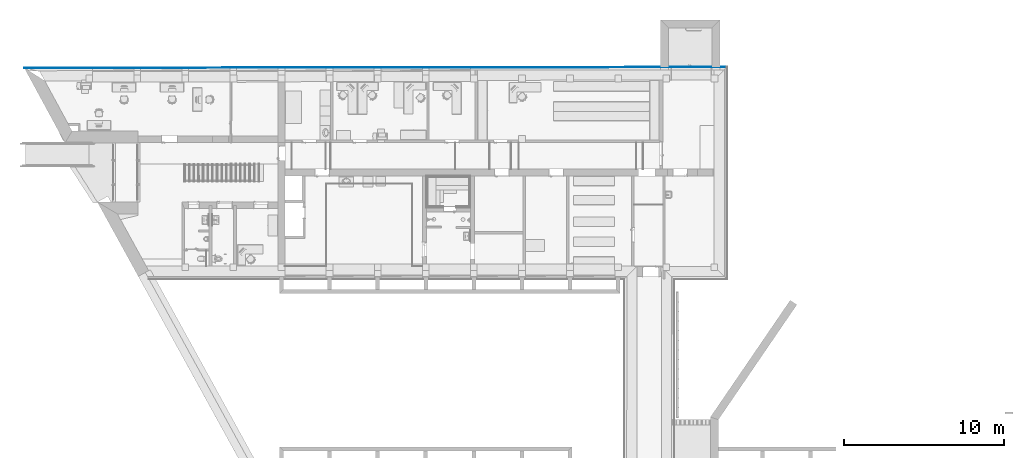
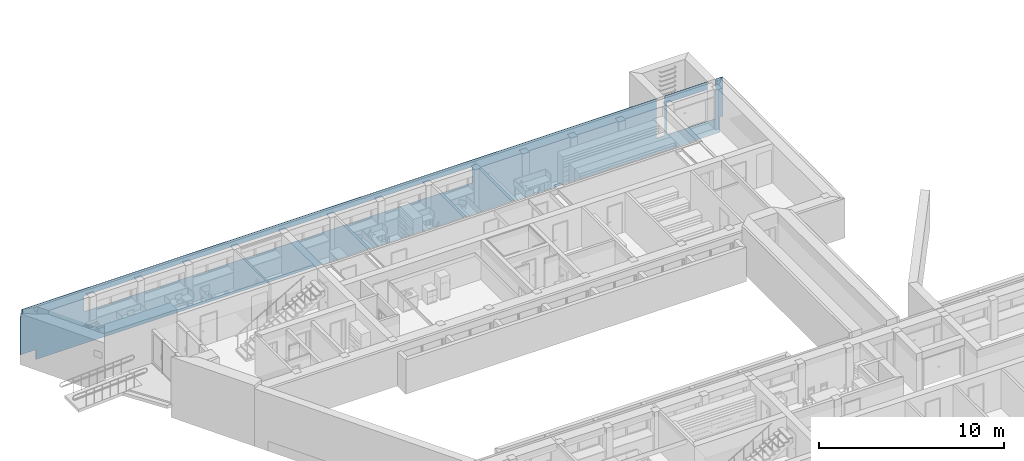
# One storey, part 66 of 127: 1 building element part, 9 openings, 1 element without a shape of its own.
"""IFC2X3 building model written with IfcOpenShell, lengths in millimetres."""

from ifc_helpers import new_model, entity, si_unit, converted_unit, derived_unit, money_unit, direction, frame, origin_with_axes, origin_2d_with_axis, place, context, subcontext, project, spatial, polyline, rectangle, outline, extrude, boolean, faceted_brep, material, type_object, element, aggregate, save


model = new_model("IFC2X3")

# Units and contexts
model_context = context("Model", 3, precision=1e-05, world=origin_with_axes(), true_north=direction((0.0, 1.0)))
body_context = subcontext(model_context, "Body", "Model", "MODEL_VIEW")
ifc_project = project(units=[si_unit("LENGTHUNIT", "METRE", prefix="MILLI"), si_unit("AREAUNIT", "SQUARE_METRE"), si_unit("VOLUMEUNIT", "CUBIC_METRE"), converted_unit("PLANEANGLEUNIT", "DEGREE", entity("IfcPlaneAngleMeasure", 0.0174532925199), si_unit("PLANEANGLEUNIT", "RADIAN"), dimensions=[0, 0, 0, 0, 0, 0, 0]), si_unit("SOLIDANGLEUNIT", "STERADIAN"), money_unit("EUR"), converted_unit("TIMEUNIT", "Year", entity("IfcTimeMeasure", 31556926.0), si_unit("TIMEUNIT", "SECOND"), dimensions=[0, 0, 1, 0, 0, 0, 0]), si_unit("MASSUNIT", "GRAM", prefix="KILO"), si_unit("THERMODYNAMICTEMPERATUREUNIT", "DEGREE_CELSIUS"), si_unit("LUMINOUSINTENSITYUNIT", "LUMEN"), si_unit("ENERGYUNIT", "JOULE", prefix="MEGA"), derived_unit("THERMALCONDUCTANCEUNIT", [(si_unit("POWERUNIT", "WATT"), 1), (si_unit("LENGTHUNIT", "METRE"), -1), (si_unit("THERMODYNAMICTEMPERATUREUNIT", "KELVIN"), -1)]), derived_unit("SPECIFICHEATCAPACITYUNIT", [(si_unit("ENERGYUNIT", "JOULE"), 1), (si_unit("MASSUNIT", "GRAM", prefix="KILO"), -1), (si_unit("THERMODYNAMICTEMPERATUREUNIT", "KELVIN"), -1)]), derived_unit("MASSDENSITYUNIT", [(si_unit("MASSUNIT", "GRAM", prefix="KILO"), 1), (si_unit("VOLUMEUNIT", "CUBIC_METRE"), -1)])], contexts=[model_context])

# Site, building, storey
site_placement = place(None, origin_with_axes())
site = spatial("IfcSite", under=ifc_project, at=site_placement, Name="Site", CompositionType="ELEMENT")
building_placement = place(site_placement, origin_with_axes())
building = spatial("IfcBuilding", under=site, at=building_placement, Name="Building", CompositionType="ELEMENT")
storey_placement = place(building_placement, origin_with_axes())
storey = spatial("IfcBuildingStorey", under=building, at=storey_placement, Name="1 KORRUS", CompositionType="ELEMENT", Elevation=0.0)

# Wall, openings, building element part
wall_type = type_object("IfcWallType", Name="VS-2", PredefinedType="NOTDEFINED")
wall_placement = place(storey_placement, frame((-0.195999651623, 71777.5659328, -1000.0), z_axis=(0.0, 0.0, 1.0), x_axis=(0.999999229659, 0.00124124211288, 0.0)))
wall = element("IfcWall", 1, at=wall_placement, inside=storey, type_object=wall_type, Name="VS2 paekivi")
opening_1_placement = place(wall_placement, frame((5451.44506851, 0.0, 2100.0), z_axis=(0.0, 0.0, 1.0), x_axis=(1.0, 0.0, 0.0)))
element("IfcOpeningElement", 2, at=opening_1_placement, cuts=wall, Name="välisaken * Double Window 22", context=body_context, shape_type="SweptSolid", body=[
    extrude(rectangle(XDim=2580.0, YDim=1050.0, at=origin_2d_with_axis()), frame((0.0, 10.0000000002, 525.0), z_axis=(0.0, 1.0, 0.0), x_axis=(1.0, 0.0, 0.0)), (0.0, 0.0, -1.0), 1460.0),
    extrude(rectangle(XDim=2580.0, YDim=1050.0, at=origin_2d_with_axis()), frame((0.0, 9.99999999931, 525.0), z_axis=(0.0, -1.0, 0.0), x_axis=(1.0, 0.0, 0.0)), (0.0, 0.0, -1.0), 1000.0),
])
opening_2_placement = place(wall_placement, frame((8451.2826352, 0.0, 2100.0), z_axis=(0.0, 0.0, 1.0), x_axis=(1.0, 0.0, 0.0)))
element("IfcOpeningElement", 3, at=opening_2_placement, cuts=wall, Name="välisaken * Double Window 22", context=body_context, shape_type="SweptSolid", body=[
    extrude(rectangle(XDim=2580.0, YDim=1050.0, at=origin_2d_with_axis()), frame((0.0, 10.0000000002, 525.0), z_axis=(0.0, 1.0, 0.0), x_axis=(1.0, 0.0, 0.0)), (0.0, 0.0, -1.0), 1460.0),
    extrude(rectangle(XDim=2580.0, YDim=1050.0, at=origin_2d_with_axis()), frame((0.0, 9.99999999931, 525.0), z_axis=(0.0, -1.0, 0.0), x_axis=(1.0, 0.0, 0.0)), (0.0, 0.0, -1.0), 1000.0),
])
opening_3_placement = place(wall_placement, frame((11449.5314844, 0.0, 2100.0), z_axis=(0.0, 0.0, 1.0), x_axis=(1.0, 0.0, 0.0)))
element("IfcOpeningElement", 4, at=opening_3_placement, cuts=wall, Name="välisaken * Double Window 22", context=body_context, shape_type="SweptSolid", body=[
    extrude(rectangle(XDim=2580.0, YDim=1050.0, at=origin_2d_with_axis()), frame((0.0, 10.0000000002, 525.0), z_axis=(0.0, 1.0, 0.0), x_axis=(1.0, 0.0, 0.0)), (0.0, 0.0, -1.0), 1460.0),
    extrude(rectangle(XDim=2580.0, YDim=1050.0, at=origin_2d_with_axis()), frame((1.13686837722e-10, 9.99999999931, 525.0), z_axis=(0.0, -1.0, 0.0), x_axis=(1.0, 0.0, 0.0)), (0.0, 0.0, -1.0), 1000.0),
])
opening_4_placement = place(wall_placement, frame((14446.3955727, 0.0, 2100.0), z_axis=(0.0, 0.0, 1.0), x_axis=(1.0, 0.0, 0.0)))
element("IfcOpeningElement", 5, at=opening_4_placement, cuts=wall, Name="välisaken * Double Window 22", context=body_context, shape_type="SweptSolid", body=[
    extrude(rectangle(XDim=2580.0, YDim=1050.0, at=origin_2d_with_axis()), frame((-1.13686837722e-10, 10.0000000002, 525.0), z_axis=(0.0, 1.0, 0.0), x_axis=(1.0, 0.0, 0.0)), (0.0, 0.0, -1.0), 1460.0),
    extrude(rectangle(XDim=2580.0, YDim=1050.0, at=origin_2d_with_axis()), frame((-1.13686837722e-10, 9.99999999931, 525.0), z_axis=(0.0, -1.0, 0.0), x_axis=(1.0, 0.0, 0.0)), (0.0, 0.0, -1.0), 1000.0),
])
opening_5_placement = place(wall_placement, frame((17443.1382835, 0.0, 2100.0), z_axis=(0.0, 0.0, 1.0), x_axis=(1.0, 0.0, 0.0)))
element("IfcOpeningElement", 6, at=opening_5_placement, cuts=wall, Name="välisaken * Double Window 22", context=body_context, shape_type="SweptSolid", body=[
    extrude(rectangle(XDim=2580.0, YDim=1050.0, at=origin_2d_with_axis()), frame((0.0, 10.0000000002, 525.0), z_axis=(0.0, 1.0, 0.0), x_axis=(1.0, 0.0, 0.0)), (0.0, 0.0, -1.0), 1460.0),
    extrude(rectangle(XDim=2580.0, YDim=1050.0, at=origin_2d_with_axis()), frame((0.0, 9.99999999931, 525.0), z_axis=(0.0, -1.0, 0.0), x_axis=(1.0, 0.0, 0.0)), (0.0, 0.0, -1.0), 1000.0),
])
opening_6_placement = place(wall_placement, frame((20440.0452109, 0.0, 2100.0), z_axis=(0.0, 0.0, 1.0), x_axis=(1.0, 0.0, 0.0)))
element("IfcOpeningElement", 7, at=opening_6_placement, cuts=wall, Name="välisaken * Double Window 22", context=body_context, shape_type="SweptSolid", body=[
    extrude(rectangle(XDim=2580.0, YDim=1050.0, at=origin_2d_with_axis()), frame((0.0, 10.0000000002, 525.0), z_axis=(0.0, 1.0, 0.0), x_axis=(1.0, 0.0, 0.0)), (0.0, 0.0, -1.0), 1460.0),
    extrude(rectangle(XDim=2580.0, YDim=1050.0, at=origin_2d_with_axis()), frame((0.0, 9.99999999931, 525.0), z_axis=(0.0, -1.0, 0.0), x_axis=(1.0, 0.0, 0.0)), (0.0, 0.0, -1.0), 1000.0),
])
opening_7_placement = place(wall_placement, frame((23448.1423437, -9.09494701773e-10, 2100.0), z_axis=(0.0, 0.0, 1.0), x_axis=(1.0, 0.0, 0.0)))
element("IfcOpeningElement", 8, at=opening_7_placement, cuts=wall, Name="välisaken * Double Window 22", context=body_context, shape_type="SweptSolid", body=[
    extrude(rectangle(XDim=2580.0, YDim=1050.0, at=origin_2d_with_axis()), frame((-1.13686837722e-10, 10.0000000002, 525.0), z_axis=(0.0, 1.0, 0.0), x_axis=(1.0, 0.0, 0.0)), (0.0, 0.0, -1.0), 1460.0),
    extrude(rectangle(XDim=2580.0, YDim=1050.0, at=origin_2d_with_axis()), frame((1.13686837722e-10, 9.99999999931, 525.0), z_axis=(0.0, -1.0, 0.0), x_axis=(1.0, 0.0, 0.0)), (0.0, 0.0, -1.0), 1000.0),
])
opening_8_placement = place(wall_placement, frame((26449.4719784, -9.09494701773e-10, 2100.0), z_axis=(0.0, 0.0, 1.0), x_axis=(1.0, 0.0, 0.0)))
element("IfcOpeningElement", 9, at=opening_8_placement, cuts=wall, Name="välisaken * Double Window 22", context=body_context, shape_type="SweptSolid", body=[
    extrude(rectangle(XDim=2580.0, YDim=1050.0, at=origin_2d_with_axis()), frame((0.0, 9.99999999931, 525.0), z_axis=(0.0, 1.0, 0.0), x_axis=(1.0, 0.0, 0.0)), (0.0, 0.0, -1.0), 1460.0),
    extrude(rectangle(XDim=2580.0, YDim=1050.0, at=origin_2d_with_axis()), frame((0.0, 9.99999999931, 525.0), z_axis=(0.0, -1.0, 0.0), x_axis=(1.0, 0.0, 0.0)), (0.0, 0.0, -1.0), 1000.0),
])
opening_9_placement = place(wall_placement, frame((41506.6155205, 0.0, 1000.0), z_axis=(0.0, 0.0, 1.0), x_axis=(1.0, 0.0, 0.0)))
element("IfcOpeningElement", 10, at=opening_9_placement, cuts=wall, Name="Välisuks * Double Door 22", context=body_context, shape_type="SweptSolid", body=[
    extrude(rectangle(XDim=2500.0, YDim=2100.0, at=origin_2d_with_axis()), frame((1.13686837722e-10, -820.000000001, 1050.0), z_axis=(0.0, -1.0, 0.0), x_axis=(-1.0, 0.0, 0.0)), (0.0, 0.0, -1.0), 2560.0),
    extrude(rectangle(XDim=2574.0, YDim=2137.0, at=origin_2d_with_axis()), frame((0.0, -630.0, 1068.5), z_axis=(0.0, -1.0, 0.0), x_axis=(-1.0, 0.0, 0.0)), (0.0, 0.0, 1.0), 920.000000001),
    extrude(rectangle(XDim=2574.0, YDim=2137.0, at=origin_2d_with_axis()), frame((0.0, 190.000000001, 1068.5), z_axis=(0.0, 1.0, 0.0), x_axis=(-1.0, 0.0, 0.0)), (0.0, 0.0, 1.0), 920.000000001),
])
ifc_material = material(Name="Kivi - Viimistlus")
building_element_part_placement = place(wall_placement, origin_with_axes())
solid_1 = boolean("DIFFERENCE", boolean("DIFFERENCE", boolean("DIFFERENCE", boolean("DIFFERENCE", boolean("DIFFERENCE", boolean("DIFFERENCE", boolean("DIFFERENCE", boolean("DIFFERENCE", extrude(outline(polyline([(-102.840454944, 160.0), (43738.1831564, 160.0), (43738.1831564, 190.0), (-102.840454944, 190.000000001), (-102.840454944, 160.0)])), origin_with_axes(), (0.0, 0.0, 1.0), 3600.00000298), faceted_brep([(1185.52869512, -630.000000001, 3167.85512503), (1185.52869512, -630.000000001, 3600.00000289), (-102.840454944, -630.000000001, 3600.00000298), (-102.840454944, -630.000000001, 0.0), (1318.8927051, -630.0, 0.0), (1318.8927051, -630.0, 650.0), (1182.44218317, -630.000000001, 650.0), (1182.44218317, -630.000000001, 3167.85512503), (877.435406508, -59.7821776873, 3600.0), (877.435406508, -59.7821776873, 3167.85512503), (657.323547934, 0.0, 3600.00000293), (-102.840454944, 0.0, 3600.00000298), (-102.840454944, 0.0, 0.0), (977.895407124, 0.0, 0.0), (977.895407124, 0.0, 650.0), (841.444885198, 0.0, 650.0), (841.444885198, 0.0, 3363.55570923), (873.17688523, -58.625567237, 3363.55570923), (873.17688523, -58.625567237, 3167.85512503), (657.323547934, 0.0, 3363.55570923)], [[[0, 1, 2, 3, 4, 5, 6, 7]], [[8, 1, 0, 9]], [[8, 10, 11, 2, 1]], [[11, 12, 3, 2]], [[13, 4, 3, 12]], [[5, 4, 13, 14]], [[6, 5, 14, 15]], [[7, 6, 15, 16, 17, 18]], [[0, 7, 18, 9]], [[10, 8, 9, 18, 17, 19]], [[14, 13, 12, 11, 10, 19, 16, 15]], [[16, 19, 17]]])), faceted_brep([(3740.42454351, -274.769073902, 3600.0), (3739.98361559, -630.000000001, 3600.0), (4159.98393913, -630.000000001, 3600.0), (4160.42421997, -275.29039559, 3600.0), (3740.42454351, -274.769073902, 1000.0), (3739.98361559, -630.000000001, 1000.0), (4159.98393913, -630.000000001, 1000.0), (4160.42421997, -275.29039559, 1000.0)], [[[0, 1, 2, 3]], [[1, 0, 4, 5]], [[6, 2, 1, 5]], [[3, 2, 6, 7]], [[0, 3, 7, 4]], [[6, 5, 4, 7]]])), faceted_brep([(6741.9663902, -278.494716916, 3600.0), (6741.5300867, -630.0, 3600.0), (7161.53041025, -630.000000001, 3600.0), (7161.96606666, -279.016038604, 3600.0), (6741.9663902, -278.494716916, 1000.0), (6741.5300867, -630.0, 1000.0), (7161.53041025, -630.000000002, 1000.0), (7161.96606666, -279.016038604, 1000.0)], [[[0, 1, 2, 3]], [[1, 0, 4, 5]], [[6, 2, 1, 5]], [[3, 2, 6, 7]], [[0, 3, 7, 4]], [[6, 5, 4, 7]]])), faceted_brep([(9741.80395689, -280.21836493, 3600.0), (9741.36979286, -630.000000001, 3600.0), (10161.3701164, -630.000000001, 3600.0), (10161.8036333, -280.739686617, 3600.0), (9741.80395689, -280.21836493, 1000.0), (9741.36979286, -630.000000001, 1000.0), (10161.3701164, -630.000000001, 1000.0), (10161.8036333, -280.739686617, 1000.0)], [[[0, 1, 2, 3]], [[1, 0, 4, 5]], [[6, 2, 1, 5]], [[3, 2, 6, 7]], [[0, 3, 7, 4]], [[6, 5, 4, 7]]])), faceted_brep([(12741.6403764, -286.648532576, 3600.0), (12741.2141938, -630.000000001, 3600.0), (13161.2145173, -630.000000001, 3600.0), (13161.6400529, -287.169854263, 3600.0), (12741.6403764, -286.648532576, 1000.0), (12741.2141938, -630.000000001, 1000.0), (13161.2145173, -630.000000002, 1000.0), (13161.6400529, -287.169854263, 1000.0)], [[[0, 1, 2, 3]], [[1, 0, 4, 5]], [[6, 2, 1, 5]], [[3, 2, 6, 7]], [[0, 3, 7, 4]], [[6, 5, 4, 7]]])), faceted_brep([(15741.7164354, -288.757165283, 3600.0), (15741.2928701, -630.000000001, 3600.0), (16161.2931937, -630.000000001, 3600.0), (16161.7161119, -289.27848697, 3600.0), (15741.7164354, -288.757165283, 1000.0), (15741.2928701, -630.000000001, 1000.0), (16161.2931937, -630.000000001, 1000.0), (16161.7161119, -289.27848697, 1000.0)], [[[0, 1, 2, 3]], [[1, 0, 4, 5]], [[6, 2, 1, 5]], [[3, 2, 6, 7]], [[0, 3, 7, 4]], [[6, 5, 4, 7]]])), faceted_brep([(18741.5002726, -291.997280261, 3600.0), (18741.0807291, -630.000000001, 3600.0), (19161.0810526, -630.000000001, 3600.0), (19161.4999491, -292.518601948, 3600.0), (18741.5002726, -291.997280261, 1000.0), (18741.0807291, -630.000000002, 1000.0), (19161.0810526, -630.000000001, 1000.0), (19161.4999491, -292.518601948, 1000.0)], [[[0, 1, 2, 3]], [[1, 0, 4, 5]], [[6, 2, 1, 5]], [[3, 2, 6, 7]], [[0, 3, 7, 4]], [[6, 5, 4, 7]]])), faceted_brep([(21740.3620403, -296.287362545, 3600.0), (21739.9478218, -630.000000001, 3600.0), (22159.9481453, -630.0, 3600.0), (22160.3617168, -296.808684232, 3600.0), (21740.3620403, -296.287362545, 1000.0), (21739.9478218, -630.000000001, 1000.0), (22159.9481453, -630.000000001, 1000.0), (22160.3617168, -296.808684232, 1000.0)], [[[0, 1, 2, 3]], [[1, 0, 4, 5]], [[6, 2, 1, 5]], [[3, 2, 6, 7]], [[0, 3, 7, 4]], [[6, 5, 4, 7]]]))
solid_2 = boolean("DIFFERENCE", boolean("DIFFERENCE", boolean("DIFFERENCE", boolean("DIFFERENCE", boolean("DIFFERENCE", boolean("DIFFERENCE", boolean("DIFFERENCE", boolean("DIFFERENCE", solid_1, faceted_brep([(24741.4903972, -299.331511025, 3600.0), (24741.0799572, -630.000000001, 3600.0), (25161.0802808, -630.0, 3600.0), (25161.4900737, -299.852832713, 3600.0), (24741.4903972, -299.331511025, 1000.0), (24741.0799572, -630.000000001, 1000.0), (25161.0802808, -630.0, 1000.0), (25161.4900737, -299.852832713, 1000.0)], [[[0, 1, 2, 3]], [[1, 0, 4, 5]], [[6, 2, 1, 5]], [[3, 2, 6, 7]], [[0, 3, 7, 4]], [[6, 5, 4, 7]]])), faceted_brep([(27739.9933001, -299.625023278, 3600.0), (27739.5832244, -630.000000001, 3600.0), (28159.583548, -630.000000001, 3600.0), (28159.9929765, -300.146344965, 3600.0), (27739.9933001, -299.625023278, 1000.0), (27739.5832244, -630.000000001, 1000.0), (28159.583548, -630.000000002, 1000.0), (28159.9929765, -300.146344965, 1000.0)], [[[0, 1, 2, 3]], [[1, 0, 4, 5]], [[6, 2, 1, 5]], [[3, 2, 6, 7]], [[0, 3, 7, 4]], [[6, 5, 4, 7]]])), faceted_brep([(30739.9934534, -303.348752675, 3600.0), (30739.5879998, -630.000000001, 3600.0), (31159.5883233, -630.000000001, 3600.0), (31159.9931298, -303.870074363, 3600.0), (30739.9934534, -303.348752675, 1000.0), (30739.5879998, -630.000000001, 1000.0), (31159.5883233, -630.000000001, 1000.0), (31159.9931298, -303.870074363, 1000.0)], [[[0, 1, 2, 3]], [[1, 0, 4, 5]], [[6, 2, 1, 5]], [[3, 2, 6, 7]], [[0, 3, 7, 4]], [[6, 5, 4, 7]]])), faceted_brep([(33739.9100805, -307.072378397, 3600.0), (33739.5092488, -630.000000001, 3600.0), (34159.5095723, -630.000000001, 3600.0), (34159.9097569, -307.593700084, 3600.0), (33739.9100805, -307.072378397, 1000.0), (33739.5092488, -630.000000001, 1000.0), (34159.5095723, -630.000000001, 1000.0), (34159.9097569, -307.593700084, 1000.0)], [[[0, 1, 2, 3]], [[1, 0, 4, 5]], [[6, 2, 1, 5]], [[3, 2, 6, 7]], [[0, 3, 7, 4]], [[6, 5, 4, 7]]])), faceted_brep([(36739.8265984, -310.796003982, 3600.0), (36739.4303887, -630.000000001, 3600.0), (37159.4307122, -630.000000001, 3600.0), (37159.8262749, -311.31732567, 3600.0), (36739.8265984, -310.796003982, 1000.0), (36739.4303887, -630.000000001, 1000.0), (37159.4307122, -630.000000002, 1000.0), (37159.8262749, -311.31732567, 1000.0)], [[[0, 1, 2, 3]], [[1, 0, 4, 5]], [[6, 2, 1, 5]], [[3, 2, 6, 7]], [[0, 3, 7, 4]], [[6, 5, 4, 7]]])), faceted_brep([(39740.5976359, -314.520562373, 3600.0), (39740.2060492, -630.0, 3600.0), (40160.2063728, -630.0, 3600.0), (40160.5973123, -315.041884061, 3600.0), (39740.5976359, -314.520562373, 1000.0), (39740.2060492, -630.000000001, 1000.0), (40160.2063728, -630.0, 1000.0), (40160.5973123, -315.041884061, 1000.0)], [[[0, 1, 2, 3]], [[1, 0, 4, 5]], [[6, 2, 1, 5]], [[3, 2, 6, 7]], [[0, 3, 7, 4]], [[6, 5, 4, 7]]])), faceted_brep([(42742.620226, -630.0, 3600.0), (42742.620226, -630.000000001, 1000.0), (43567.9477789, -630.0, 1000.0), (43567.9477789, -630.0, 0.0), (43738.1831564, -630.0, 0.0), (43738.1831564, -630.0, 3600.00000298), (42743.0071869, -318.24727948, 3600.0), (42743.0071869, -318.24727948, 1000.0), (42937.5529611, -318.488758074, 1000.0), (42937.947296, -9.09494701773e-10, 1000.0), (43567.9477789, 0.0, 1000.0), (43567.9477789, 0.0, 0.0), (43738.1831564, 0.0, 0.0), (43738.1831564, 0.0, 3600.00000298), (42937.947296, 0.0, 3600.0), (42937.5529611, -318.488758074, 3600.0)], [[[0, 1, 2, 3, 4, 5]], [[0, 6, 7, 1]], [[2, 1, 7, 8, 9, 10]], [[3, 2, 10, 11]], [[3, 11, 12, 4]], [[5, 4, 12, 13]], [[6, 0, 5, 13, 14, 15]], [[6, 15, 8, 7]], [[15, 14, 9, 8]], [[9, 14, 13, 12, 11, 10]]])), faceted_brep([(657.323547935, -9.09494701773e-10, 3167.85512503), (657.323547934, 0.0, 3600.00000293), (-102.840454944, 0.0, 3600.00000298), (-102.840454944, 0.0, 0.0), (977.895407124, 0.0, 0.0), (977.895407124, 0.0, 650.0), (2.04636307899e-09, 0.0, 650.0), (0.0, 0.0, 3167.85512503), (68.2199265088, 160.0, 3600.00000297), (68.2199265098, 160.0, 3167.85512503), (-102.840454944, 159.999999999, 3600.00000298), (-102.840454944, 159.999999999, 0.0), (891.29291875, 159.999999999, 0.0), (891.29291875, 159.999999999, 650.0), (-86.6024883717, 159.999999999, 650.0), (-86.6024883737, 159.999999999, 3167.85512503)], [[[0, 1, 2, 3, 4, 5, 6, 7]], [[8, 1, 0, 9]], [[1, 8, 10, 2]], [[10, 11, 3, 2]], [[12, 4, 3, 11]], [[4, 12, 13, 5]], [[6, 5, 13, 14]], [[7, 6, 14, 15]], [[0, 7, 15, 9]], [[13, 12, 11, 10, 8, 9, 15, 14]]]))
solid_3 = boolean("DIFFERENCE", boolean("DIFFERENCE", boolean("DIFFERENCE", boolean("DIFFERENCE", boolean("DIFFERENCE", boolean("DIFFERENCE", boolean("DIFFERENCE", boolean("DIFFERENCE", solid_2, faceted_brep([(3884.06051778, 159.999999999, 2100.0), (3884.06051778, 159.999999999, 3150.0), (28106.8498502, 160.0, 3150.0), (28106.8498502, 160.0, 2100.0), (3884.02333769, 130.046079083, 2100.0), (3884.02333769, 130.046079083, 3150.0), (28106.7753505, 99.9797560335, 3150.0), (28106.7753505, 99.9797560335, 2100.0)], [[[0, 1, 2, 3]], [[1, 0, 4, 5]], [[2, 1, 5, 6]], [[3, 2, 6, 7]], [[0, 3, 7, 4]], [[4, 7, 6, 5]]])), faceted_brep([(39603.2008308, 0.0, 1000.0), (40103.2008308, -9.09494701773e-10, 1000.0), (40103.2008308, 0.0, 3600.0000002), (39603.2008308, 9.09494701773e-10, 3600.00000023), (39603.2008308, 159.999999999, 1000.0), (40103.2008308, 160.0, 1000.0), (40103.2008308, 160.000000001, 3600.0), (39603.2008308, 160.0, 3600.0)], [[[0, 1, 2, 3]], [[1, 0, 4, 5]], [[6, 2, 1, 5]], [[7, 3, 2, 6]], [[0, 3, 7, 4]], [[4, 7, 6, 5]]])), faceted_brep([(42790.8627419, 160.0, 3600.0), (42790.664143, 0.0, 3600.00000001), (43290.6645282, 0.0, 3600.0), (43290.8631271, 160.0, 3600.0), (42790.8627419, 159.999999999, 1000.0), (42790.664143, -9.09494701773e-10, 1000.0), (43290.6645282, -9.09494701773e-10, 1000.0), (43290.8631271, 159.999999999, 1000.0)], [[[0, 1, 2, 3]], [[1, 0, 4, 5]], [[6, 2, 1, 5]], [[3, 2, 6, 7]], [[4, 0, 3, 7]], [[5, 4, 7, 6]]])), faceted_brep([(43567.9477789, 160.0, 1000.0), (43568.1458818, 160.0, 1000.0), (43568.1458818, 160.000000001, 3600.0), (43738.1831564, 159.999999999, 3600.00000298), (43738.1831564, 159.999999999, 0.0), (43567.9477789, 160.0, 0.0), (43567.9477789, 0.0, 1000.0), (43567.9477789, 9.09494701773e-10, 3600.0), (43738.1831564, 0.0, 3600.00000298), (43738.1831564, 0.0, 0.0), (43567.9477789, 0.0, 0.0)], [[[0, 1, 2, 3, 4, 5]], [[1, 0, 6]], [[7, 2, 1, 6]], [[2, 7, 8, 3]], [[8, 9, 4, 3]], [[10, 5, 4, 9]], [[10, 6, 0, 5]], [[6, 10, 9, 8, 7]]])), faceted_brep([(-102.840454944, 159.999999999, 3600.00000298), (-102.840454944, 159.999999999, 0.0), (891.29291875, 159.999999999, 0.0), (891.29291875, 159.999999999, 650.0), (-86.6024883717, 159.999999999, 650.0), (-86.6024883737, 159.999999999, 3167.85512503), (68.2199265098, 160.0, 3167.85512503), (68.2199265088, 160.0, 3600.00000297), (-102.840454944, 190.000000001, 0.0), (-102.840454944, 190.000000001, 3600.00000298), (-102.840454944, 190.0, 3167.85512503), (-102.840454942, 190.000000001, 650.0), (875.054952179, 190.000000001, 0.0), (875.05495218, 190.0, 650.0), (-42.2370025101, 190.0, 3167.85512503), (1.13686837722e-10, 178.528469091, 3363.55570923), (1.13686837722e-10, 178.528469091, 3600.00000298), (-42.2370025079, 190.0, 3363.55570923), (1.13686837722e-10, 189.999999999, 3600.00000298), (1.13686837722e-10, 189.999999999, 3363.55570923)], [[[0, 1, 2, 3, 4, 5, 6, 7]], [[8, 1, 0, 9, 10, 11]], [[1, 8, 12, 2]], [[3, 2, 12, 13]], [[11, 4, 3, 13]], [[5, 4, 11, 10]], [[5, 10, 14, 6]], [[15, 16, 7, 6, 14, 17]], [[9, 0, 7, 16, 18]], [[14, 10, 9, 18, 19, 17]], [[8, 11, 13, 12]], [[16, 15, 19, 18]], [[15, 17, 19]]])), faceted_brep([(3884.09775508, 190.0, 3150.0), (3884.09775508, 190.0, 2100.0), (3884.06051778, 160.0, 2100.0), (3884.06051778, 160.0, 3150.0), (28106.8870875, 190.0, 3150.0), (28106.8870875, 190.0, 2100.0), (28106.8498502, 160.0, 2100.0), (28106.8498502, 160.0, 3150.0)], [[[0, 1, 2, 3]], [[1, 0, 4, 5]], [[2, 1, 5, 6]], [[3, 2, 6, 7]], [[0, 3, 7, 4]], [[7, 6, 5, 4]]])), faceted_brep([(39603.2008308, 160.0, 3600.0), (39603.2008308, 159.999999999, 1000.0), (40103.2008308, 160.0, 1000.0), (40103.2008308, 160.000000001, 3600.0), (39603.2008308, 190.0, 3600.0), (39603.2008308, 189.999999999, 1000.0), (40103.2008308, 190.0, 1000.0), (40103.2008308, 190.000000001, 3600.0)], [[[0, 1, 2, 3]], [[1, 0, 4, 5]], [[2, 1, 5, 6]], [[3, 2, 6, 7]], [[0, 3, 7, 4]], [[5, 4, 7, 6]]])), faceted_brep([(42790.8627419, 160.0, 3600.0), (42790.8627419, 159.999999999, 1000.0), (43290.8631271, 159.999999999, 1000.0), (43290.8631271, 160.0, 3600.0), (42790.8999792, 190.0, 3600.0), (42790.8999792, 190.0, 1000.0), (43290.9003643, 189.999999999, 1000.0), (43290.9003643, 189.999999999, 3600.0)], [[[0, 1, 2, 3]], [[0, 4, 5, 1]], [[2, 1, 5, 6]], [[3, 2, 6, 7]], [[4, 0, 3, 7]], [[6, 5, 4, 7]]]))
building_element_part = element("IfcBuildingElementPart", 11, at=building_element_part_placement, material=ifc_material, Name="Kivi - Viimistlus", context=body_context, shape_type="CSG", body=[
    boolean("DIFFERENCE", solid_3, faceted_brep([(43567.9477789, 160.0, 1000.0), (43567.9477789, 160.0, 0.0), (43738.1831564, 159.999999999, 0.0), (43738.1831564, 159.999999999, 3600.00000298), (43738.14603, 160.0, 3600.0), (43738.14603, 160.0, 1000.0), (43568.1458818, 160.0, 1000.0), (43567.9477789, 190.0, 1000.0), (43567.9477789, 190.0, 0.0), (43738.1831564, 189.999999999, 0.0), (43738.1831743, 190.0, 1000.0), (43738.1831564, 189.985577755, 1000.0), (43738.1831564, 189.985577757, 3600.0)], [[[0, 1, 2, 3, 4, 5, 6]], [[1, 0, 7, 8]], [[2, 1, 8, 9]], [[3, 2, 9, 10, 11, 12]], [[4, 3, 12]], [[5, 4, 12, 11]], [[0, 6, 5, 11, 10, 7]], [[8, 7, 10, 9]]])),
])
aggregate(wall, [building_element_part])

save(model, "model.ifc")
